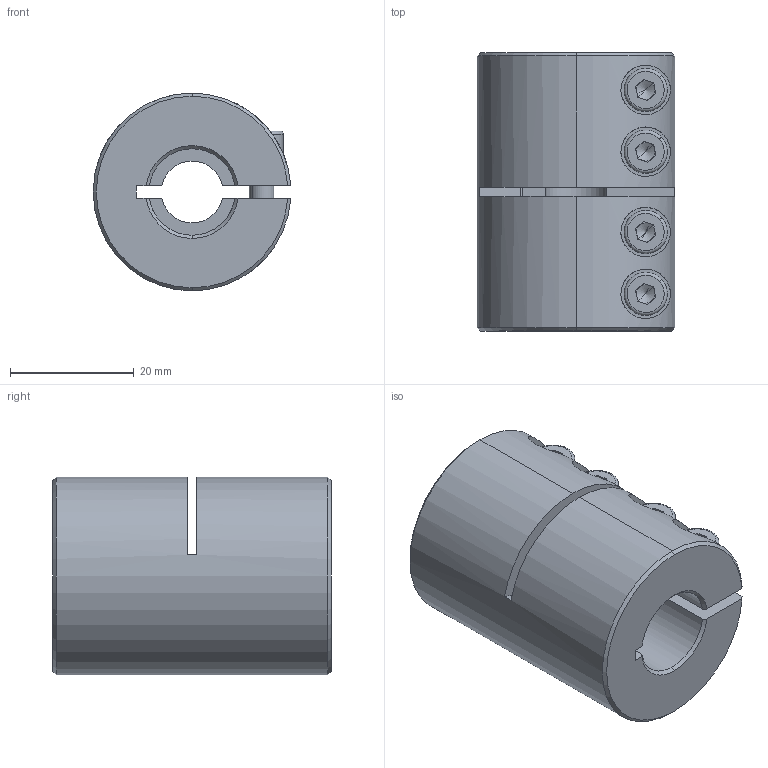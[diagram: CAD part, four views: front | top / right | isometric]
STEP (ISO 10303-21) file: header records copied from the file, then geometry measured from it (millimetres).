
FILE_DESCRIPTION (( 'STEP AP214' ), '1' );
FILE_NAME ('LL-B-D32L45-10-14½¨Ä£.STEP', '2022-07-21T07:08:38', ( '' ), ( '' ), 'SwSTEP 2.0', 'SolidWorks 2022', '' );
FILE_SCHEMA (( 'AUTOMOTIVE_DESIGN' ));
Length unit declared in the file: millimetre
Products named in the file (1): LL-B-D32L45-10-14膘耀
Bounding box: 31.97 x 45 x 32 mm (x, y, z)
Volume: 28718.6 mm3; surface area: 10834.2 mm2
Topology: 1 solids, 1 shells, 193 faces, 492 edges, 309 vertices
Faces by surface type: plane 88, cylinder 77, cone 20, torus 8
Entity records: 6357 total; most frequent: CARTESIAN_POINT 1583, DIRECTION 1037, ORIENTED_EDGE 968, EDGE_CURVE 484, AXIS2_PLACEMENT_3D 403, VERTEX_POINT 309, LINE 231, VECTOR 231
